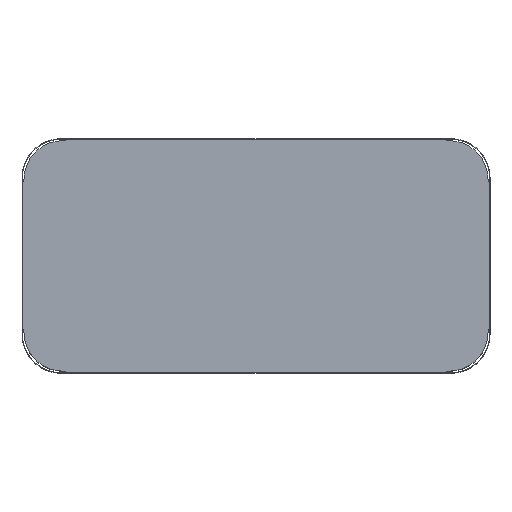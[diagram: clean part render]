
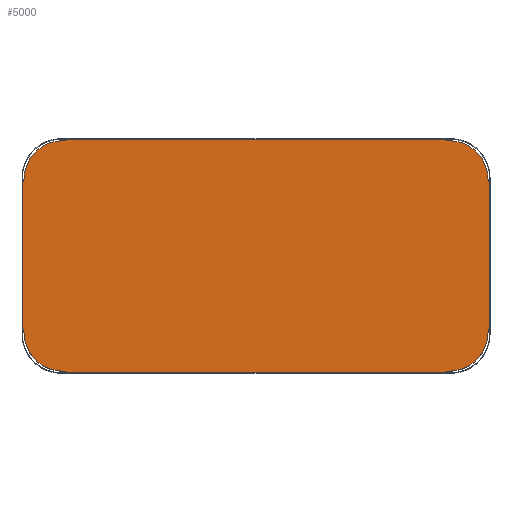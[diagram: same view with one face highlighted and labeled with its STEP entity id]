
A CAD part, top view. The second image highlights one B-rep face of the part: STEP entity #5000.
In plain terms, the highlighted planar face has unit normal (0, 0, 1).
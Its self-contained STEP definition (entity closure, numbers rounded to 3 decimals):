
#2810=CARTESIAN_POINT('',(692.176,-334.75,435.6));
#2820=DIRECTION('',(0.,0.,-1.));
#2830=DIRECTION('',(-0.5,-0.866,
0.));
#2840=AXIS2_PLACEMENT_3D('',#2810,#2820,#2830);
#2850=PLANE('',#2840);
#2860=CARTESIAN_POINT('',(975.,-155.,435.6));
#2870=DIRECTION('',(0.,-1.,0.));
#2880=VECTOR('',#2870,1.);
#2890=LINE('',#2860,#2880);
#2900=CARTESIAN_POINT('',(975.,-62.657,435.6));
#2910=VERTEX_POINT('',#2900);
#2920=CARTESIAN_POINT('',(975.,-247.343,435.6));
#2930=VERTEX_POINT('',#2920);
#2940=EDGE_CURVE('',#2910,#2930,#2890,.T.);
#2950=ORIENTED_EDGE('',*,*,#2940,.F.);
#2960=CARTESIAN_POINT('',(972.,-247.343,435.6));
#2970=DIRECTION('',(0.,0.,-1.));
#2980=DIRECTION('',(-1.,0.,0.));
#2990=AXIS2_PLACEMENT_3D('',#2960,#2970,#2980);
#3000=CIRCLE('',#2990,3.);
#3010=CARTESIAN_POINT('',(974.333,-249.229,435.6));
#3020=VERTEX_POINT('',#3010);
#3030=EDGE_CURVE('',#2930,#3020,#3000,.T.);
#3040=ORIENTED_EDGE('',*,*,#3030,.F.);
#3050=CARTESIAN_POINT('',(979.,-253.,435.6));
#3060=DIRECTION('',(0.,0.,1.));
#3070=DIRECTION('',(-1.,0.,0.));
#3080=AXIS2_PLACEMENT_3D('',#3050,#3060,#3070);
#3090=CIRCLE('',#3080,6.);
#3100=CARTESIAN_POINT('',(973.,-253.,435.6));
#3110=VERTEX_POINT('',#3100);
#3120=EDGE_CURVE('',#3020,#3110,#3090,.T.);
#3130=ORIENTED_EDGE('',*,*,#3120,.F.);
#3140=CARTESIAN_POINT('',(923.,-253.,435.6));
#3150=DIRECTION('',(0.,0.,-1.));
#3160=DIRECTION('',(-1.,0.,0.));
#3170=AXIS2_PLACEMENT_3D('',#3140,#3150,#3160);
#3180=CIRCLE('',#3170,50.);
#3190=CARTESIAN_POINT('',(923.,-303.,435.6));
#3200=VERTEX_POINT('',#3190);
#3210=EDGE_CURVE('',#3110,#3200,#3180,.T.);
#3220=ORIENTED_EDGE('',*,*,#3210,.F.);
#3230=CARTESIAN_POINT('',(923.,-309.,435.6));
#3240=DIRECTION('',(0.,0.,1.));
#3250=DIRECTION('',(-1.,0.,0.));
#3260=AXIS2_PLACEMENT_3D('',#3230,#3240,#3250);
#3270=CIRCLE('',#3260,6.);
#3280=CARTESIAN_POINT('',(919.229,-304.333,435.6));
#3290=VERTEX_POINT('',#3280);
#3300=EDGE_CURVE('',#3200,#3290,#3270,.T.);
#3310=ORIENTED_EDGE('',*,*,#3300,.F.);
#3320=CARTESIAN_POINT('',(917.343,-302.,435.6));
#3330=DIRECTION('',(0.,0.,-1.));
#3340=DIRECTION('',(-1.,0.,0.));
#3350=AXIS2_PLACEMENT_3D('',#3320,#3330,#3340);
#3360=CIRCLE('',#3350,3.);
#3370=CARTESIAN_POINT('',(917.343,-305.,435.6));
#3380=VERTEX_POINT('',#3370);
#3390=EDGE_CURVE('',#3290,#3380,#3360,.T.);
#3400=ORIENTED_EDGE('',*,*,#3390,.F.);
#3410=CARTESIAN_POINT('',(675.,-305.,435.6));
#3420=DIRECTION('',(-1.,0.,0.));
#3430=VECTOR('',#3420,1.);
#3440=LINE('',#3410,#3430);
#3450=CARTESIAN_POINT('',(432.657,-305.,435.6));
#3460=VERTEX_POINT('',#3450);
#3470=EDGE_CURVE('',#3380,#3460,#3440,.T.);
#3480=ORIENTED_EDGE('',*,*,#3470,.F.);
#3490=CARTESIAN_POINT('',(432.657,-302.,435.6));
#3500=DIRECTION('',(0.,0.,-1.));
#3510=DIRECTION('',(-1.,0.,0.));
#3520=AXIS2_PLACEMENT_3D('',#3490,#3500,#3510);
#3530=CIRCLE('',#3520,3.);
#3540=CARTESIAN_POINT('',(430.771,-304.333,435.6));
#3550=VERTEX_POINT('',#3540);
#3560=EDGE_CURVE('',#3460,#3550,#3530,.T.);
#3570=ORIENTED_EDGE('',*,*,#3560,.F.);
#3580=CARTESIAN_POINT('',(427.,-309.,435.6));
#3590=DIRECTION('',(0.,0.,1.));
#3600=DIRECTION('',(-1.,0.,0.));
#3610=AXIS2_PLACEMENT_3D('',#3580,#3590,#3600);
#3620=CIRCLE('',#3610,6.);
#3630=CARTESIAN_POINT('',(427.,-303.,435.6));
#3640=VERTEX_POINT('',#3630);
#3650=EDGE_CURVE('',#3550,#3640,#3620,.T.);
#3660=ORIENTED_EDGE('',*,*,#3650,.F.);
#3670=CARTESIAN_POINT('',(427.,-253.,435.6));
#3680=DIRECTION('',(0.,0.,-1.));
#3690=DIRECTION('',(-1.,0.,0.));
#3700=AXIS2_PLACEMENT_3D('',#3670,#3680,#3690);
#3710=CIRCLE('',#3700,50.);
#3720=CARTESIAN_POINT('',(377.,-253.,435.6));
#3730=VERTEX_POINT('',#3720);
#3740=EDGE_CURVE('',#3640,#3730,#3710,.T.);
#3750=ORIENTED_EDGE('',*,*,#3740,.F.);
#3760=CARTESIAN_POINT('',(371.,-253.,435.6));
#3770=DIRECTION('',(0.,0.,1.));
#3780=DIRECTION('',(-1.,0.,0.));
#3790=AXIS2_PLACEMENT_3D('',#3760,#3770,#3780);
#3800=CIRCLE('',#3790,6.);
#3810=CARTESIAN_POINT('',(375.667,-249.229,435.6));
#3820=VERTEX_POINT('',#3810);
#3830=EDGE_CURVE('',#3730,#3820,#3800,.T.);
#3840=ORIENTED_EDGE('',*,*,#3830,.F.);
#3850=CARTESIAN_POINT('',(378.,-247.343,435.6));
#3860=DIRECTION('',(0.,0.,1.));
#3870=DIRECTION('',(-1.,0.,0.));
#3880=AXIS2_PLACEMENT_3D('',#3850,#3860,#3870);
#3890=CIRCLE('',#3880,3.);
#3900=CARTESIAN_POINT('',(375.,-247.343,435.6));
#3910=VERTEX_POINT('',#3900);
#3920=EDGE_CURVE('',#3910,#3820,#3890,.T.);
#3930=ORIENTED_EDGE('',*,*,#3920,.T.);
#3940=CARTESIAN_POINT('',(375.,-155.,435.6));
#3950=DIRECTION('',(0.,1.,0.));
#3960=VECTOR('',#3950,1.);
#3970=LINE('',#3940,#3960);
#3980=CARTESIAN_POINT('',(375.,-62.657,435.6));
#3990=VERTEX_POINT('',#3980);
#4000=EDGE_CURVE('',#3910,#3990,#3970,.T.);
#4010=ORIENTED_EDGE('',*,*,#4000,.F.);
#4020=CARTESIAN_POINT('',(378.,-62.657,435.6));
#4030=DIRECTION('',(0.,0.,-1.));
#4040=DIRECTION('',(-1.,0.,0.));
#4050=AXIS2_PLACEMENT_3D('',#4020,#4030,#4040);
#4060=CIRCLE('',#4050,3.);
#4070=CARTESIAN_POINT('',(375.667,-60.771,435.6));
#4080=VERTEX_POINT('',#4070);
#4090=EDGE_CURVE('',#3990,#4080,#4060,.T.);
#4100=ORIENTED_EDGE('',*,*,#4090,.F.);
#4110=CARTESIAN_POINT('',(371.,-57.,435.6));
#4120=DIRECTION('',(0.,0.,1.));
#4130=DIRECTION('',(-1.,0.,0.));
#4140=AXIS2_PLACEMENT_3D('',#4110,#4120,#4130);
#4150=CIRCLE('',#4140,6.);
#4160=CARTESIAN_POINT('',(377.,-57.,435.6));
#4170=VERTEX_POINT('',#4160);
#4180=EDGE_CURVE('',#4080,#4170,#4150,.T.);
#4190=ORIENTED_EDGE('',*,*,#4180,.F.);
#4200=CARTESIAN_POINT('',(427.,-57.,435.6));
#4210=DIRECTION('',(0.,0.,-1.));
#4220=DIRECTION('',(-1.,0.,0.));
#4230=AXIS2_PLACEMENT_3D('',#4200,#4210,#4220);
#4240=CIRCLE('',#4230,50.);
#4250=CARTESIAN_POINT('',(427.,-7.,435.6));
#4260=VERTEX_POINT('',#4250);
#4270=EDGE_CURVE('',#4170,#4260,#4240,.T.);
#4280=ORIENTED_EDGE('',*,*,#4270,.F.);
#4290=CARTESIAN_POINT('',(427.,-1.,435.6));
#4300=DIRECTION('',(0.,0.,1.));
#4310=DIRECTION('',(-1.,0.,0.));
#4320=AXIS2_PLACEMENT_3D('',#4290,#4300,#4310);
#4330=CIRCLE('',#4320,6.);
#4340=CARTESIAN_POINT('',(430.771,-5.667,435.6));
#4350=VERTEX_POINT('',#4340);
#4360=EDGE_CURVE('',#4260,#4350,#4330,.T.);
#4370=ORIENTED_EDGE('',*,*,#4360,.F.);
#4380=CARTESIAN_POINT('',(432.657,-8.,435.6));
#4390=DIRECTION('',(0.,0.,-1.));
#4400=DIRECTION('',(-1.,0.,0.));
#4410=AXIS2_PLACEMENT_3D('',#4380,#4390,#4400);
#4420=CIRCLE('',#4410,3.);
#4430=CARTESIAN_POINT('',(432.657,-5.,435.6));
#4440=VERTEX_POINT('',#4430);
#4450=EDGE_CURVE('',#4350,#4440,#4420,.T.);
#4460=ORIENTED_EDGE('',*,*,#4450,.F.);
#4470=CARTESIAN_POINT('',(675.,-5.,435.6));
#4480=DIRECTION('',(1.,0.,0.));
#4490=VECTOR('',#4480,1.);
#4500=LINE('',#4470,#4490);
#4510=CARTESIAN_POINT('',(917.343,-5.,435.6));
#4520=VERTEX_POINT('',#4510);
#4530=EDGE_CURVE('',#4440,#4520,#4500,.T.);
#4540=ORIENTED_EDGE('',*,*,#4530,.F.);
#4550=CARTESIAN_POINT('',(917.343,-8.,435.6));
#4560=DIRECTION('',(0.,0.,-1.));
#4570=DIRECTION('',(-1.,0.,0.));
#4580=AXIS2_PLACEMENT_3D('',#4550,#4560,#4570);
#4590=CIRCLE('',#4580,3.);
#4600=CARTESIAN_POINT('',(919.229,-5.667,435.6));
#4610=VERTEX_POINT('',#4600);
#4620=EDGE_CURVE('',#4520,#4610,#4590,.T.);
#4630=ORIENTED_EDGE('',*,*,#4620,.F.);
#4640=CARTESIAN_POINT('',(923.,-1.,435.6));
#4650=DIRECTION('',(0.,0.,1.));
#4660=DIRECTION('',(-1.,0.,0.));
#4670=AXIS2_PLACEMENT_3D('',#4640,#4650,#4660);
#4680=CIRCLE('',#4670,6.);
#4690=CARTESIAN_POINT('',(923.,-7.,435.6));
#4700=VERTEX_POINT('',#4690);
#4710=EDGE_CURVE('',#4610,#4700,#4680,.T.);
#4720=ORIENTED_EDGE('',*,*,#4710,.F.);
#4730=CARTESIAN_POINT('',(923.,-57.,435.6));
#4740=DIRECTION('',(0.,0.,-1.));
#4750=DIRECTION('',(-1.,0.,0.));
#4760=AXIS2_PLACEMENT_3D('',#4730,#4740,#4750);
#4770=CIRCLE('',#4760,50.);
#4780=CARTESIAN_POINT('',(973.,-57.,435.6));
#4790=VERTEX_POINT('',#4780);
#4800=EDGE_CURVE('',#4700,#4790,#4770,.T.);
#4810=ORIENTED_EDGE('',*,*,#4800,.F.);
#4820=CARTESIAN_POINT('',(979.,-57.,435.6));
#4830=DIRECTION('',(0.,0.,1.));
#4840=DIRECTION('',(-1.,0.,0.));
#4850=AXIS2_PLACEMENT_3D('',#4820,#4830,#4840);
#4860=CIRCLE('',#4850,6.);
#4870=CARTESIAN_POINT('',(974.333,-60.771,435.6));
#4880=VERTEX_POINT('',#4870);
#4890=EDGE_CURVE('',#4790,#4880,#4860,.T.);
#4900=ORIENTED_EDGE('',*,*,#4890,.F.);
#4910=CARTESIAN_POINT('',(972.,-62.657,435.6));
#4920=DIRECTION('',(0.,0.,-1.));
#4930=DIRECTION('',(-1.,0.,0.));
#4940=AXIS2_PLACEMENT_3D('',#4910,#4920,#4930);
#4950=CIRCLE('',#4940,3.);
#4960=EDGE_CURVE('',#4880,#2910,#4950,.T.);
#4970=ORIENTED_EDGE('',*,*,#4960,.F.);
#4980=EDGE_LOOP('',(#4970,#4900,#4810,#4720,#4630,#4540,#4460,#4370,
#4280,#4190,#4100,#4010,#3930,#3840,#3750,#3660,#3570,#3480,#3400,#3310,
#3220,#3130,#3040,#2950));
#4990=FACE_OUTER_BOUND('',#4980,.T.);
#5000=ADVANCED_FACE('',(#4990),#2850,.F.);
